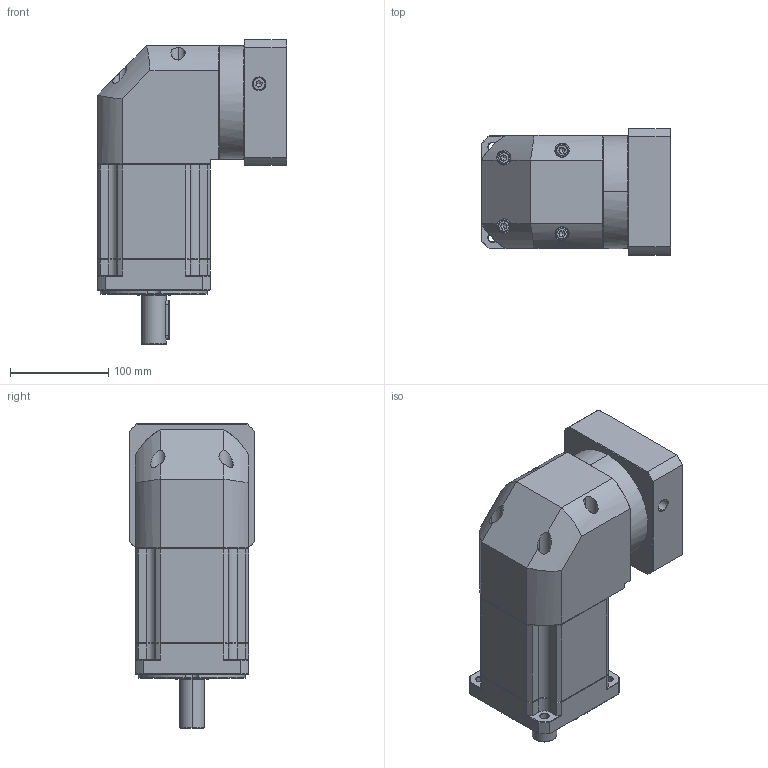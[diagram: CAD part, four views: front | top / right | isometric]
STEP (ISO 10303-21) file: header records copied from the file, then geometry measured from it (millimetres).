
FILE_DESCRIPTION (( 'STEP AP214' ), '1' );
FILE_NAME ('ZBR115A-D25-L3-P2-24-110-145-M8.step', '2023-08-26T12:35:13', ( '' ), ( '' ), 'SwSTEP 2.0', 'SolidWorks 2016', '' );
FILE_SCHEMA (( 'AUTOMOTIVE_DESIGN' ));
Length unit declared in the file: millimetre
Products named in the file (1): ZBR115A-D25-L3-P2-24-110-145-M8
Bounding box: 192.4 x 128 x 310 mm (x, y, z)
Volume: 3697682.9 mm3; surface area: 278112.7 mm2
Topology: 6 solids, 6 shells, 2379 faces, 6239 edges, 3964 vertices
Faces by surface type: plane 1139, cylinder 439, bspline 424, cone 369, torus 8
Entity records: 128018 total; most frequent: CARTESIAN_POINT 46860, ORIENTED_EDGE 12418, DIRECTION 9793, EDGE_CURVE 6209, LINE 3991, VECTOR 3991, VERTEX_POINT 3964, AXIS2_PLACEMENT_3D 2901
